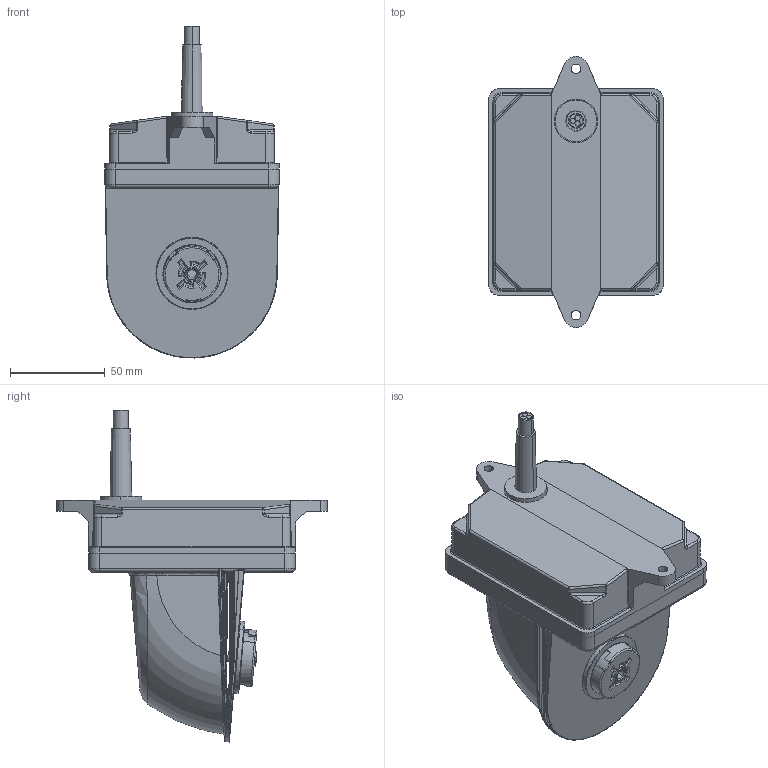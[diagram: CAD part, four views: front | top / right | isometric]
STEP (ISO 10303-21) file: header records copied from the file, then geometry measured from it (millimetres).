
FILE_DESCRIPTION (( 'STEP AP214' ), '1' );
FILE_NAME ('Mastanbaugehäuse HSW4070 mit Zhaga-Buchse.STEP', '2023-05-11T06:53:01', ( '' ), ( '' ), 'SwSTEP 2.0', 'SolidWorks 2021', '' );
FILE_SCHEMA (( 'AUTOMOTIVE_DESIGN' ));
Length unit declared in the file: millimetre
Products named in the file (1): Mastanbaugehäuse HSW4070 mit Zhaga-Buchse
Bounding box: 92.05 x 143 x 175.13 mm (x, y, z)
Surface area: 59589.6 mm2 (no closed solid volume)
Topology: 0 solids, 15 shells, 578 faces, 1995 edges, 1376 vertices
Faces by surface type: plane 199, cylinder 147, bspline 134, cone 57, torus 25, sphere 16
Entity records: 39864 total; most frequent: CARTESIAN_POINT 18147, ORIENTED_EDGE 3228, DIRECTION 2640, EDGE_CURVE 1991, VERTEX_POINT 1376, LINE 888, VECTOR 888, AXIS2_PLACEMENT_3D 876
